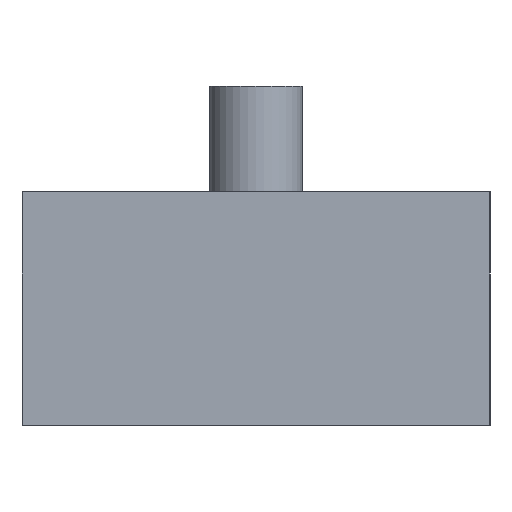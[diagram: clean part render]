
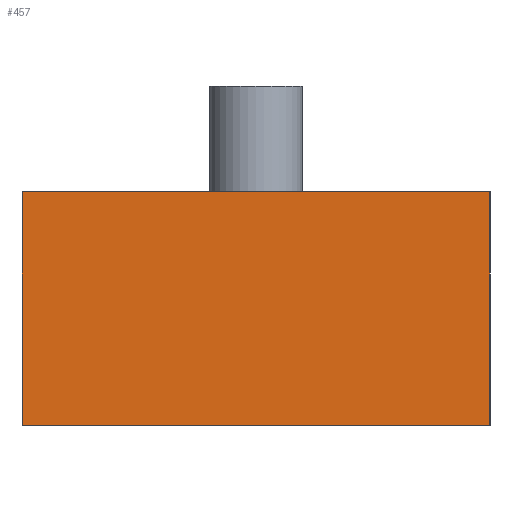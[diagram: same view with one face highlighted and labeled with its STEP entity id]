
A CAD part, left-side view. The second image highlights one B-rep face of the part: STEP entity #457.
In plain terms, the highlighted planar face has unit normal (-1, 0, 0).
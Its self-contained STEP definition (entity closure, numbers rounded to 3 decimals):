
#339=CARTESIAN_POINT('',(-20.0,-10.,-10.));
#340=VERTEX_POINT('',#339);
#357=CARTESIAN_POINT('',(-20.0,-10.,0.0));
#358=VERTEX_POINT('',#357);
#365=CARTESIAN_POINT('',(-20.0,-10.,0.0));
#366=DIRECTION('',(0.0,0.0,-1.0));
#367=VECTOR('',#366,10.);
#368=LINE('',#365,#367);
#369=EDGE_CURVE('',#358,#340,#368,.T.);
#410=CARTESIAN_POINT('',(-20.0,10.,-10.));
#411=VERTEX_POINT('',#410);
#418=CARTESIAN_POINT('',(-20.0,10.,0.0));
#419=VERTEX_POINT('',#418);
#420=CARTESIAN_POINT('',(-20.0,10.,0.0));
#421=DIRECTION('',(0.0,0.0,-1.0));
#422=VECTOR('',#421,10.);
#423=LINE('',#420,#422);
#424=EDGE_CURVE('',#419,#411,#423,.T.);
#436=CARTESIAN_POINT('',(-20.0,10.,0.0));
#437=DIRECTION('',(-1.0,0.0,0.0));
#438=DIRECTION('',(0.0,0.0,1.0));
#439=AXIS2_PLACEMENT_3D('',#436,#437,#438);
#440=PLANE('',#439);
#441=CARTESIAN_POINT('',(-20.0,10.,-10.));
#442=DIRECTION('',(0.0,-1.0,0.0));
#443=VECTOR('',#442,20.);
#444=LINE('',#441,#443);
#445=EDGE_CURVE('',#411,#340,#444,.T.);
#446=ORIENTED_EDGE('',*,*,#445,.T.);
#447=ORIENTED_EDGE('',*,*,#369,.F.);
#448=CARTESIAN_POINT('',(-20.0,-10.,0.0));
#449=DIRECTION('',(0.0,1.0,0.0));
#450=VECTOR('',#449,20.);
#451=LINE('',#448,#450);
#452=EDGE_CURVE('',#358,#419,#451,.T.);
#453=ORIENTED_EDGE('',*,*,#452,.T.);
#454=ORIENTED_EDGE('',*,*,#424,.T.);
#455=EDGE_LOOP('',(#446,#447,#453,#454));
#456=FACE_OUTER_BOUND('',#455,.T.);
#457=ADVANCED_FACE('',(#456),#440,.T.);
